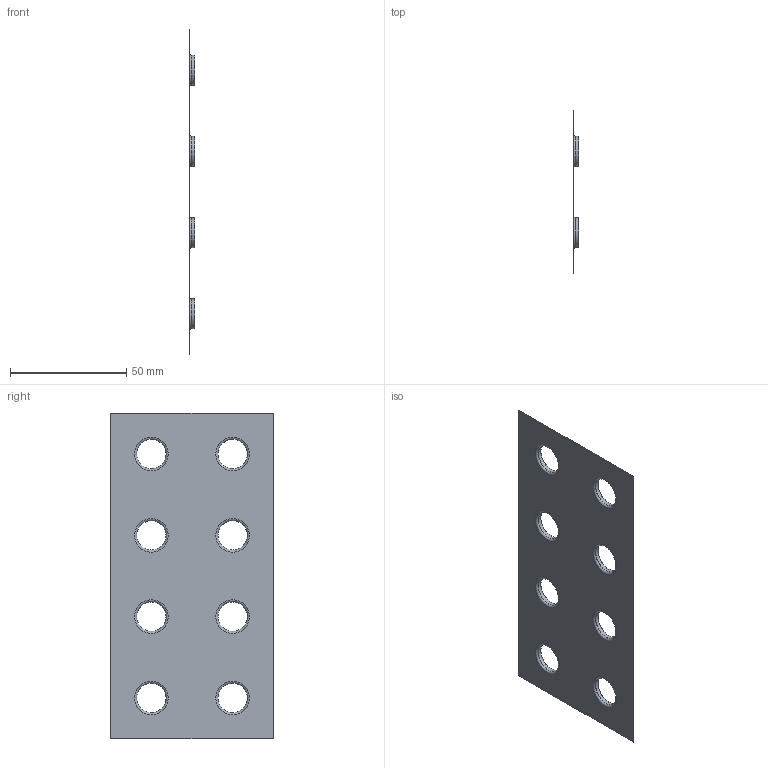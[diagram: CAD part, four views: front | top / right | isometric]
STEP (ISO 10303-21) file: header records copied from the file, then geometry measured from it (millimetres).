
FILE_DESCRIPTION( ( 'Unknown' ), '1' );
FILE_NAME( '//SERVER2K3/Dati/Documenti/TEC/SolidEdge/solidedge/Template/Pacchi Alettati/Geometrie formato STEP/Pacco Standard 35x35 ø12,7.stp', 'Unknown', ( 'Unknown' ), ( 'Unknown' ), 'PSStep 15.0.49', 'Unknown', ' ' );
FILE_SCHEMA( ( 'AUTOMOTIVE_DESIGN { 1 0 10303 214 1 1 1 1 }' ) );
Length unit declared in the file: millimetre
Products named in the file (1): 1
Bounding box: 2.5 x 70 x 140 mm (x, y, z)
Volume: 1038.5 mm3; surface area: 18962.5 mm2
Topology: 1 solids, 1 shells, 46 faces, 108 edges, 72 vertices
Faces by surface type: cylinder 16, torus 16, plane 14
Full cylindrical faces by diameter (mm): 12.7 x8, 12.92 x8
Entity records: 1452 total; most frequent: DIRECTION 202, CARTESIAN_POINT 163, ORIENTED_EDGE 120, EDGE_LOOP 102, AXIS2_PLACEMENT_3D 95, FACE_OUTER_BOUND 78, EDGE_CURVE 60, VERTEX_POINT 56
